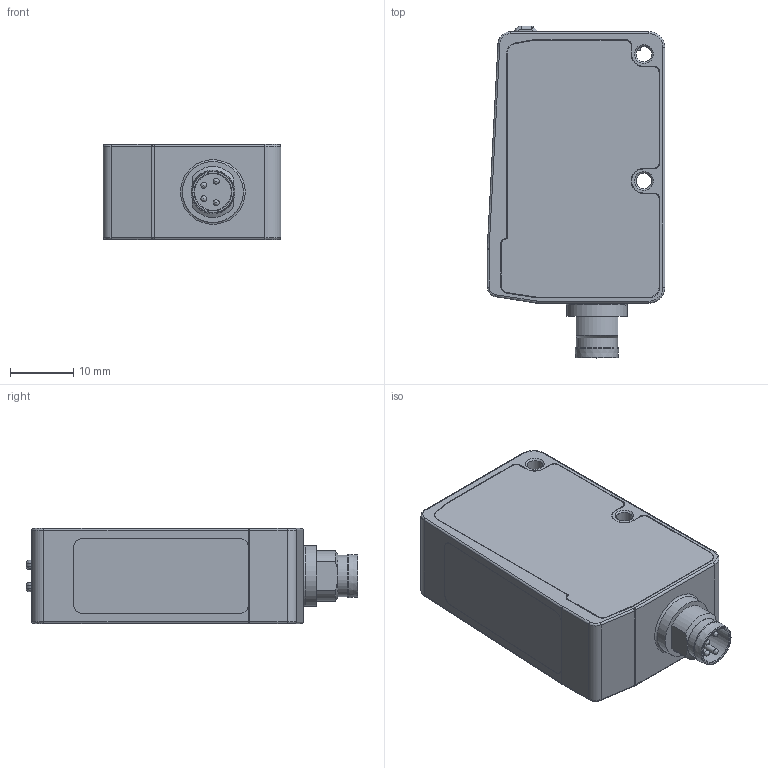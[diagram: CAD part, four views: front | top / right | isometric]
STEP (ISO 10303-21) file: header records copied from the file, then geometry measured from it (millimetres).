
FILE_DESCRIPTION(/* description */ (''),/* implementation_level */ '2;1');
FILE_NAME(/* name */ 'DSD-0442.stp',/* time_stamp */ '2020-09-22T15:52:43+02:00',/* author */ (''),/* organization */ (''),/* preprocessor_version */ 'ST-DEVELOPER v16.7',/* originating_system */ 'SIEMENS PLM Software NX 12.0',/* authorisation */ '');
FILE_SCHEMA (('AUTOMOTIVE_DESIGN { 1 0 10303 214 3 1 1 1 }'));
Length unit declared in the file: millimetre
Products named in the file (1): MBra1EA089BB27mg
Bounding box: 28 x 52.35 x 15 mm (x, y, z)
Volume: 17246.2 mm3; surface area: 5769.4 mm2
Topology: 1 solids, 3 shells, 244 faces, 601 edges, 374 vertices
Faces by surface type: cylinder 98, plane 92, bspline 27, torus 11, cone 10, sphere 4, extrusion 2
Full cylindrical faces by diameter (mm): 0.95 x4, 2.45 x2, 5.77 x1, 6.52 x1, 6.9 x1, 9.6 x1
Entity records: 8318 total; most frequent: CARTESIAN_POINT 2143, DIRECTION 1197, ORIENTED_EDGE 1138, EDGE_CURVE 569, AXIS2_PLACEMENT_3D 465, VERTEX_POINT 369, EDGE_LOOP 288, VECTOR 267
